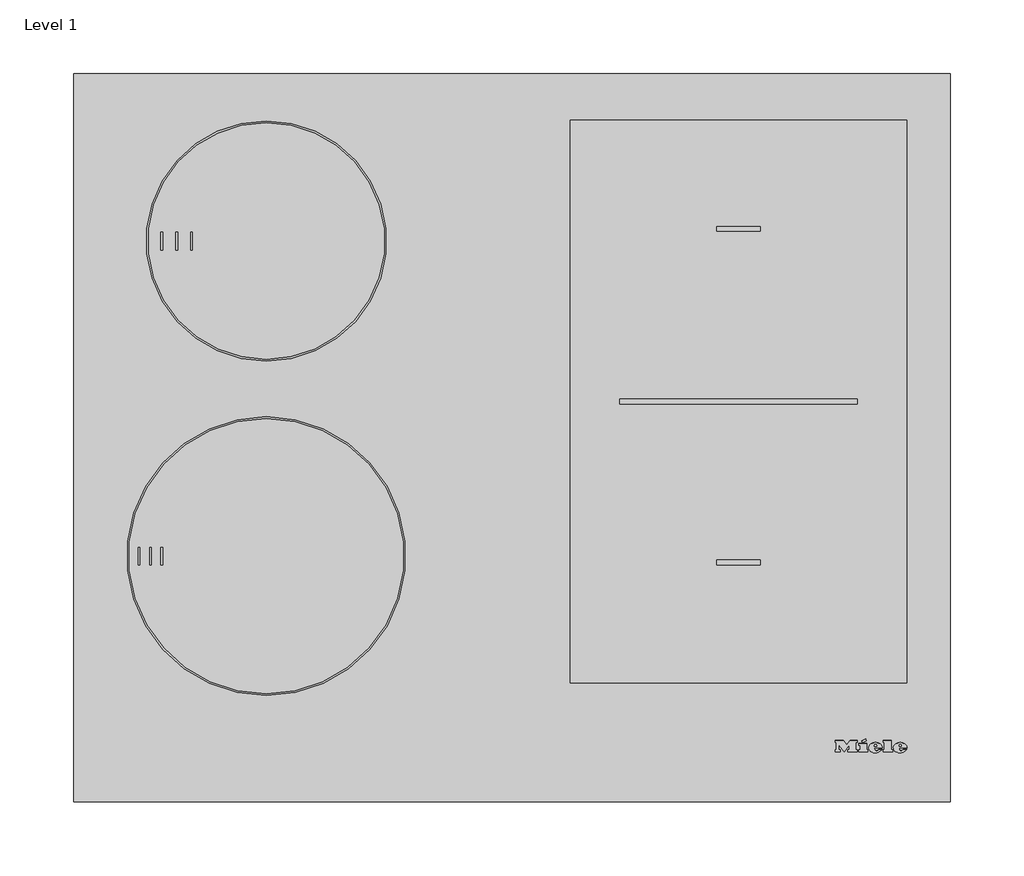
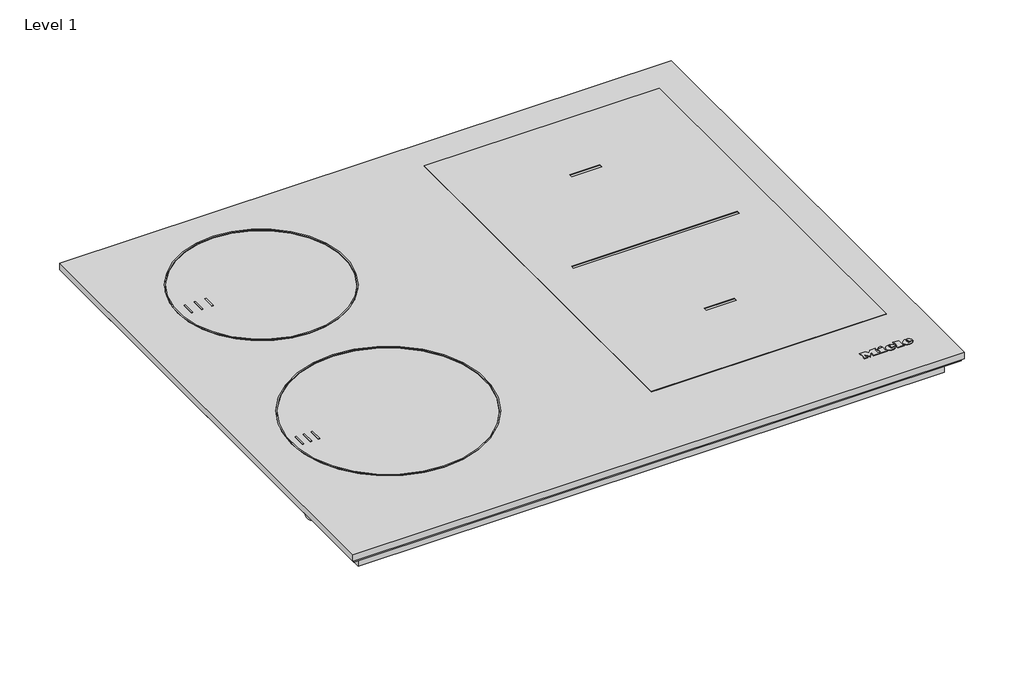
# One storey: 1 proxy.
"""IFC4 building model written with IfcOpenShell, lengths in millimetres."""

from ifc_helpers import new_model, si_unit, origin, place, context, project, spatial, transform, mapped, element, save
from components import specialty_equipment_44581af3

model = new_model("IFC4")

# Units and contexts
model_context = context("Model", 3, world=origin())
ifc_project = project(units=[si_unit("LENGTHUNIT", "METRE", prefix="MILLI")], contexts=[model_context])

# Site, building, storey
site = spatial("IfcSite", under=ifc_project)
building = spatial("IfcBuilding", under=site)
storey = spatial("IfcBuildingStorey", under=building, Name="Level 1", Elevation=0.0)

# Proxy
placement = place(None, origin())
specialty_equipment_shape = specialty_equipment_44581af3(model_context)
element("IfcBuildingElementProxy", 1, Name="11128630_D_KM7404FX : 26740460_D_11128630_KM7404FX", ObjectType="11128630_D_KM7404FX : 26740460_D_11128630_KM7404FX", at=placement, inside=storey, context=model_context, shape_type="MappedRepresentation", body=[
    mapped(specialty_equipment_shape, transform((0.0, 0.0, 0.0), x_axis=(1.0, 0.0, 0.0), y_axis=(0.0, 1.0, 0.0), z_axis=(0.0, 0.0, 1.0))),
])

save(model, "model.ifc")
